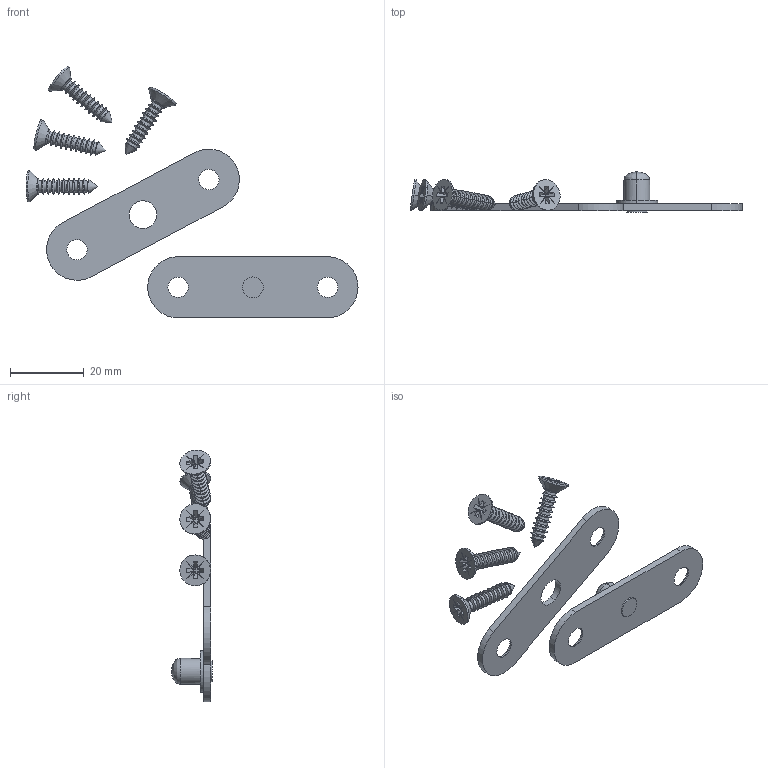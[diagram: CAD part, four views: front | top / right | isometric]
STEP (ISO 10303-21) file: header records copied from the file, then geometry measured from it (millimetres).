
FILE_DESCRIPTION (( 'STEP AP203' ), '1' );
FILE_NAME ('15.08.190-0 Invisible Pivot Hinge SS201.STEP', '2025-12-04T05:15:36', ( '' ), ( '' ), 'SwSTEP 2.0', 'SolidWorks 2024', '' );
FILE_SCHEMA (( 'CONFIG_CONTROL_DESIGN' ));
Length unit declared in the file: millimetre
Products named in the file (4): A_Invisible Pivot Hinge 360DG Rotation SS201 57x16x1.8mm; Rivet_Invisible Pivot Hinge 360DG Rotation SS201 57x16x1.8mm; cross fh tapping DIN7976_st4,2x19 CSK_PZ; 15.08.190-0 Invisible Pivot Hinge SS201
Assembly tree (6 placements, depth 2):
  15.08.190-0 Invisible Pivot Hinge SS201
    Rivet_Invisible Pivot Hinge 360DG Rotation SS201 57x16x1.8mm
    A_Invisible Pivot Hinge 360DG Rotation SS201 57x16x1.8mm
    cross fh tapping DIN7976_st4,2x19 CSK_PZ  x4
Bounding box: 89.99 x 11 x 68.26 mm (x, y, z)
Volume: 4199.3 mm3; surface area: 5666.2 mm2
Topology: 6 solids, 6 shells, 441 faces, 996 edges, 566 vertices
Faces by surface type: cone 184, cylinder 124, plane 115, bspline 18
Entity records: 4838 total; most frequent: CARTESIAN_POINT 1065, DIRECTION 720, ORIENTED_EDGE 656, EDGE_CURVE 328, AXIS2_PLACEMENT_3D 272, VERTEX_POINT 191, VECTOR 176, LINE 176
